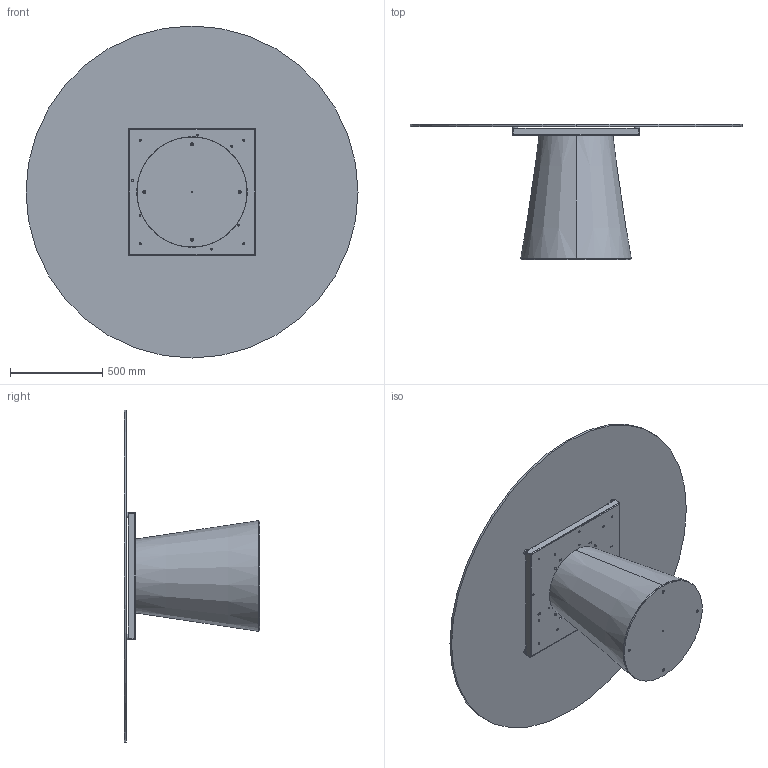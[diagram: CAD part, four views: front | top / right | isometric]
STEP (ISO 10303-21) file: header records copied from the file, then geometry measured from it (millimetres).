
FILE_DESCRIPTION (( 'STEP AP203' ), '1' );
FILE_NAME ('TO13G_Teo_d.180_Glass.STEP', '2024-08-02T09:26:11', ( '' ), ( '' ), 'SwSTEP 2.0', 'SolidWorks 2022', '' );
FILE_SCHEMA (( 'CONFIG_CONTROL_DESIGN' ));
Length unit declared in the file: millimetre
Products named in the file (13): TTAV0801 TELAIO UNIVERSALE TONDO-PIASTRINA; TEO000000PIA-00-TEO PIASTRA DI BASE IN METALLO GREZZO; C1XCRMXX-00-piani Rotondi Cristallo_C13 D.180cm; BASE TED LEGNO CON ZAVORRA; TTAV0801-02-TELAIO UNIVERSALE TONDO; M8xXXmm_hex_M8X20mm; COLLO TELAIO UNIVERSALE TTAV0801 CON FERRAMENTA_MTG TOP CRISTALLO VERNICIATO-CERAMICA; 434070-00-PIEDINO TPV GOMMA NERO D. 30x8max18_filo estetico; TEO0000-00-TEO BASE LEGNO IMPIALLACCIATA LEVIGATO PRONTA X VERNICE; M8xXXmm_M8x20mm; TO13G_Teo_d.180_Glass; TTAV0801-02-TELAIO UNIVERSALE TONDO-VASSOIO; rondella M8_8X24
Assembly tree (27 placements, depth 4):
  TO13G_Teo_d.180_Glass
    BASE TED LEGNO CON ZAVORRA
      TEO000000PIA-00-TEO PIASTRA DI BASE IN METALLO GREZZO
      TEO0000-00-TEO BASE LEGNO IMPIALLACCIATA LEVIGATO PRONTA X VERNICE
      M8xXXmm_hex_M8X20mm  x4
    COLLO TELAIO UNIVERSALE TTAV0801 CON FERRAMENTA_MTG TOP CRISTALLO VERNICIATO-CERAMICA
      TTAV0801-02-TELAIO UNIVERSALE TONDO
        TTAV0801-02-TELAIO UNIVERSALE TONDO-VASSOIO
        TTAV0801 TELAIO UNIVERSALE TONDO-PIASTRINA  x4
      434070-00-PIEDINO TPV GOMMA NERO D. 30x8max18_filo estetico  x4
    rondella M8_8X24  x4
    M8xXXmm_M8x20mm  x4
    C1XCRMXX-00-piani Rotondi Cristallo_C13 D.180cm
Bounding box: 1800 x 735.19 x 1800 mm (x, y, z)
Volume: 60809189.8 mm3; surface area: 9591467.4 mm2
Topology: 28 solids, 28 shells, 836 faces, 2050 edges, 1264 vertices
Faces by surface type: plane 386, cylinder 298, cone 80, torus 72
Entity records: 15637 total; most frequent: DIRECTION 2518, CARTESIAN_POINT 2422, ORIENTED_EDGE 2298, EDGE_CURVE 1149, AXIS2_PLACEMENT_3D 915, VERTEX_POINT 733, LINE 688, VECTOR 688
